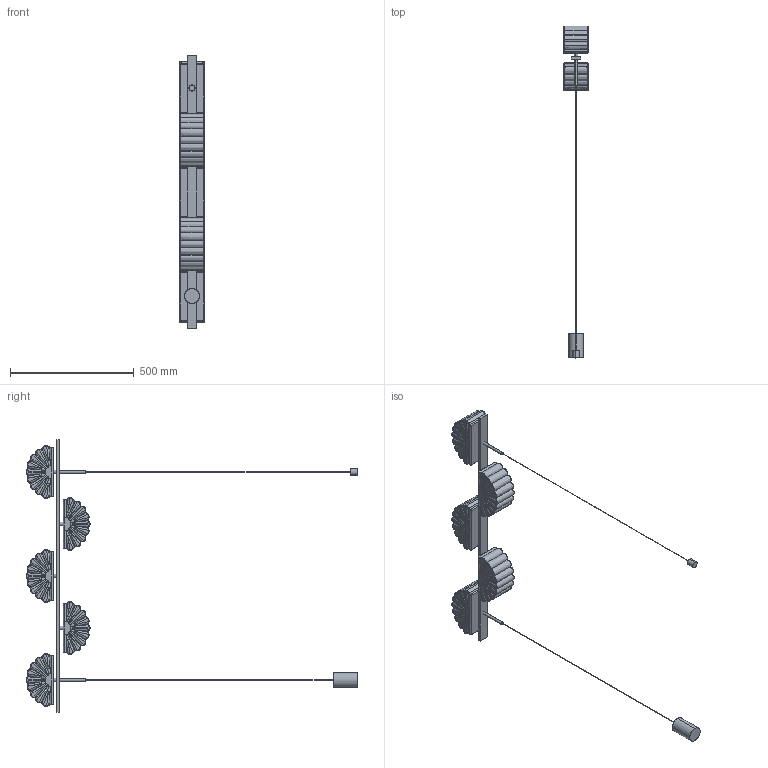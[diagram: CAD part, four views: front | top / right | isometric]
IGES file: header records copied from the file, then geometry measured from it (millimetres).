
Start section: SolidWorks IGES file using analytic representation for surfaces
Global section: file name: C:\Users\Agustin\Desktop\ARNOLD\2024 SEPTIEMBRE\2D\GINA\2D-3D C1334_5\GINA_C1334_5.IGS; native system: SolidWorks 2018; preprocessor: SolidWorks 2018; author: Agustin; date: 240918.094242; units: millimetre
Bounding box: 100 x 1339.17 x 1100 mm (x, y, z)
Surface area: 638433.4 mm2 (no closed solid volume)
Topology: 0 solids, 0 shells, 1290 faces, 13483 edges, 13438 vertices
Faces by surface type: bspline 983, revolution 307
